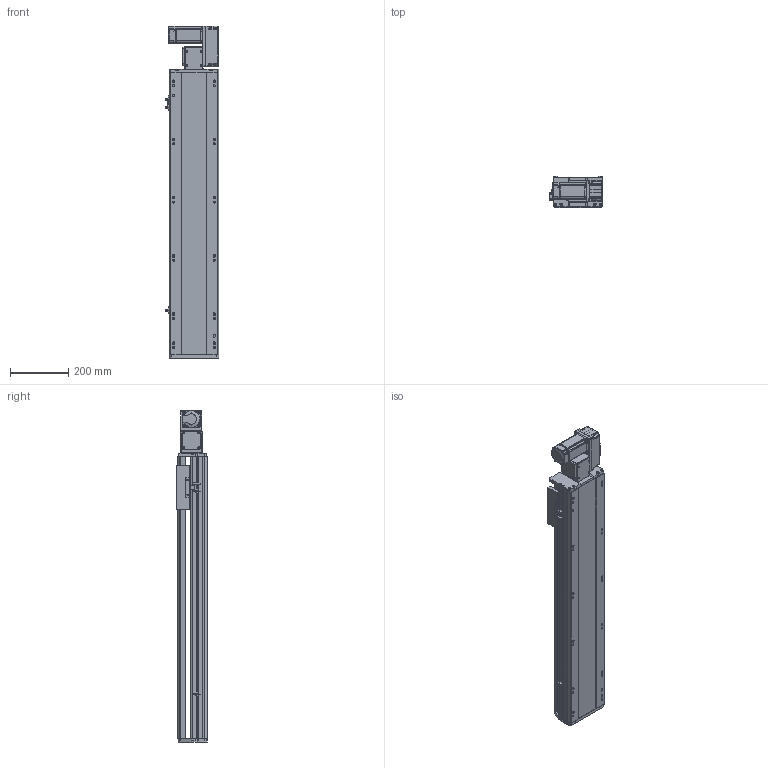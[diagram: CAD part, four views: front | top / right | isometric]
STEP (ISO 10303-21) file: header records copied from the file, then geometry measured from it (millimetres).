
FILE_DESCRIPTION (( 'STEP AP214' ), '1' );
FILE_NAME ('RTB17S-XX-700-R-M40-C4.STEP', '2025-12-11T07:34:57', ( '' ), ( '' ), 'SwSTEP 2.0', 'SolidWorks 2018', '' );
FILE_SCHEMA (( 'AUTOMOTIVE_DESIGN' ));
Length unit declared in the file: millimetre
Products named in the file (14): RTB17-R-011菁釱^RTB17S-XX-XX-R-M40-C4; 400W侜督萇儂^RTB17S-XX-XX-R-M40-C4; RTB14-L-017P^RTB17S-R-々湍釱蚾饜-400W_RTB17S-XX-XX-R-M40-C4; RTB17S-L-014-T20--々湍釱^RTB17S-R-々湍釱蚾饜-400W_RTB17S-XX-XX-R-M40-C4; RTB17S-R-々湍釱蚾饜-400W^RTB17S-XX-XX-R-M40-C4; RTH13-BL-012覜茼え俋离^RTB17S-XX-XX-R-M40-C4; RTB14-L-008-M20--萇儂啣^RTB17S-R-々湍釱蚾饜-400W_RTB17S-XX-XX-R-M40-C4; RTB17S-L-007奻裔^RTB17S-XX-XX-R-M40-C4; RTB17S-L-001耜醱啣^RTB17S-XX-XX-R-M40-C4; RTB17S-XX-700-R-M40-C4; RTB14-L-018P^RTB17S-R-々湍釱蚾饜-400W_RTB17S-XX-XX-R-M40-C4; RTB17S-L-004佪裝蹟譫蟀諉釱^RTB17S-XX-XX-R-M40-C4; RTB14-L-005P--轴承塑胶压盖^RTB17S-R-皮带座装配-400W_RTB17S-XX-XX-R-M40-C4; OMRON EE-SX672 传感器^RTB17S-XX-XX-R-M40-C4
Assembly tree (16 placements, depth 3):
  RTB17S-XX-700-R-M40-C4
    RTB17-R-011菁釱^RTB17S-XX-XX-R-M40-C4
    RTB17S-L-007奻裔^RTB17S-XX-XX-R-M40-C4
    OMRON EE-SX672 传感器^RTB17S-XX-XX-R-M40-C4  x3
    RTB17S-L-001耜醱啣^RTB17S-XX-XX-R-M40-C4
    400W侜督萇儂^RTB17S-XX-XX-R-M40-C4
    RTB17S-L-004佪裝蹟譫蟀諉釱^RTB17S-XX-XX-R-M40-C4
    RTH13-BL-012覜茼え俋离^RTB17S-XX-XX-R-M40-C4
    RTB17S-R-々湍釱蚾饜-400W^RTB17S-XX-XX-R-M40-C4
      RTB17S-L-014-T20--々湍釱^RTB17S-R-々湍釱蚾饜-400W_RTB17S-XX-XX-R-M40-C4
      RTB14-L-005P--轴承塑胶压盖^RTB17S-R-皮带座装配-400W_RTB17S-XX-XX-R-M40-C4
      RTB14-L-008-M20--萇儂啣^RTB17S-R-々湍釱蚾饜-400W_RTB17S-XX-XX-R-M40-C4
      RTB14-L-017P^RTB17S-R-々湍釱蚾饜-400W_RTB17S-XX-XX-R-M40-C4  x2
      RTB14-L-018P^RTB17S-R-々湍釱蚾饜-400W_RTB17S-XX-XX-R-M40-C4
Bounding box: 183.5 x 108 x 1141 mm (x, y, z)
Volume: 9925274.2 mm3; surface area: 1232176.7 mm2
Topology: 15 solids, 15 shells, 2189 faces, 6033 edges, 3933 vertices
Faces by surface type: plane 1066, cylinder 675, bspline 301, cone 139, torus 8
Entity records: 61865 total; most frequent: CARTESIAN_POINT 17238, ORIENTED_EDGE 8910, DIRECTION 8306, EDGE_CURVE 4455, VERTEX_POINT 2921, AXIS2_PLACEMENT_3D 2851, VECTOR 2604, LINE 2604
